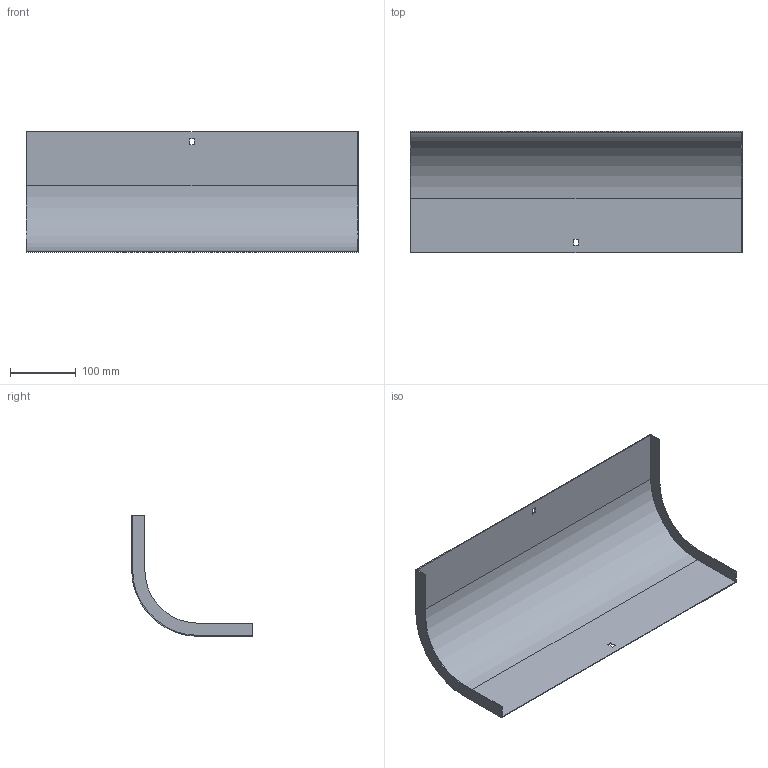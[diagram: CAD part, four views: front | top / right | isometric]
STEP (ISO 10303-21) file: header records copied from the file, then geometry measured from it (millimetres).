
FILE_DESCRIPTION (( 'STEP AP214' ), '1' );
FILE_NAME ('33G1B500.step', '2025-02-21T12:44:32', ( '' ), ( '' ), 'SwSTEP 2.0', 'SolidWorks 2023', '' );
FILE_SCHEMA (( 'AUTOMOTIVE_DESIGN' ));
Length unit declared in the file: millimetre
Products named in the file (1): 33G1B500
Bounding box: 504 x 183.5 x 183.5 mm (x, y, z)
Volume: 260464.9 mm3; surface area: 349882.1 mm2
Topology: 1 solids, 1 shells, 26 faces, 72 edges, 48 vertices
Faces by surface type: plane 22, cylinder 4
Entity records: 855 total; most frequent: CARTESIAN_POINT 147, ORIENTED_EDGE 144, DIRECTION 134, EDGE_CURVE 72, LINE 64, VECTOR 64, VERTEX_POINT 48, AXIS2_PLACEMENT_3D 35
